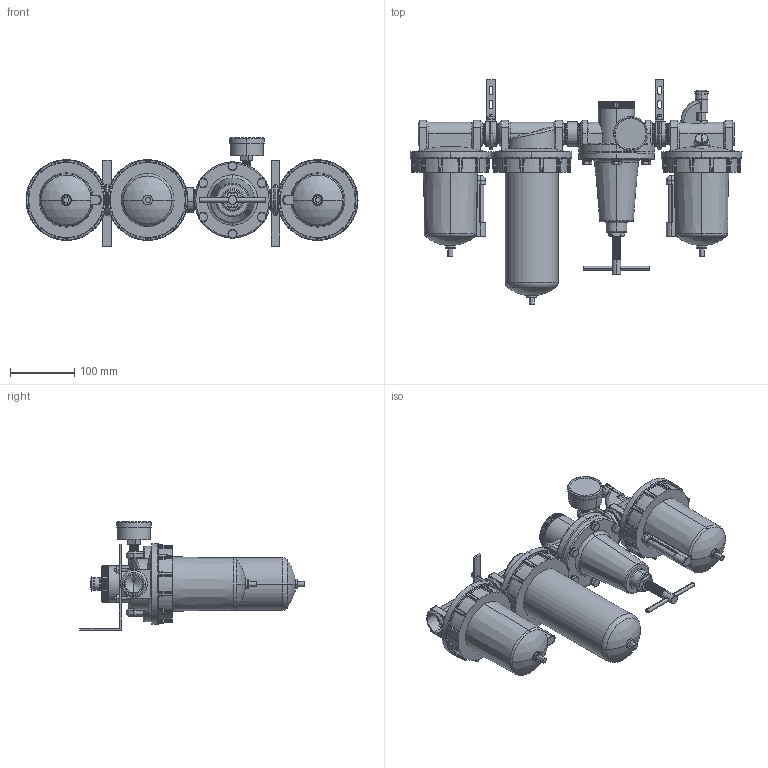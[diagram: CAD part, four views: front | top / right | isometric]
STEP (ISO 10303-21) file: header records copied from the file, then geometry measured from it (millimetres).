
FILE_DESCRIPTION (( 'STEP AP203' ), '1' );
FILE_NAME ('A728#W#-08YB#.STEP', '2016-02-16T03:00:13', ( '' ), ( '' ), 'SwSTEP 2.0', 'SolidWorks 2014', '' );
FILE_SCHEMA (( 'CONFIG_CONTROL_DESIGN' ));
Length unit declared in the file: millimetre
Products named in the file (28): F602W-08; R119-06-1; R119-08-3; L606-W-08; L606-W-06-4; R119-06-6; H604D-06-2; R119-06-7; 50-P-AD=1-4PT.SLDPRT; ISO 4014 - M8; L606-W-06-5; L606-W-06-3; H604D-08YB#; R119-06-4; L606-W-06-2; R119-06-2; A728#W#-08YB#; L606-W-06-1; 50-P-AD=1-4PT-2; L606W-08; F602W-08#YB#; R119-06-5; 50-P-AD=1-4PT-1; H604D-08-1
Assembly tree (39 placements, depth 4):
  A728#W#-08YB#
    F602W-08#YB#
      F602W-08
      L606-W-06-2
      L606-W-06-5
    H604D-08YB#
      H604D-08-1
      H604D-06-2
      L606-W-06-5
    (unnamed)  x3
    L606W-08
      L606-W-08
      L606-W-06-1
      L606-W-06-2
      L606-W-06-5
      L606-W-06-4
      L606-W-06-3  x2
      (unnamed)
    (unnamed)  x2
    (unnamed)
      R119-06-1
      R119-06-2
      R119-08-3
      R119-06-4
      R119-06-5
      R119-06-6
      ISO 4014 - M8  x6
      R119-06-7
      50-P-AD=1-4PT.SLDPRT
        50-P-AD=1-4PT-1
        50-P-AD=1-4PT-2
Bounding box: 518.5 x 350.49 x 169 mm (x, y, z)
Volume: 4811901.1 mm3; surface area: 518703 mm2
Topology: 41 solids, 41 shells, 2139 faces, 5251 edges, 3127 vertices
Faces by surface type: plane 662, cylinder 486, cone 426, bspline 344, torus 135, sphere 86
Entity records: 80804 total; most frequent: CARTESIAN_POINT 39038, ORIENTED_EDGE 8718, DIRECTION 7391, EDGE_CURVE 4359, AXIS2_PLACEMENT_3D 3076, VERTEX_POINT 2639, EDGE_LOOP 1860, ADVANCED_FACE 1802
